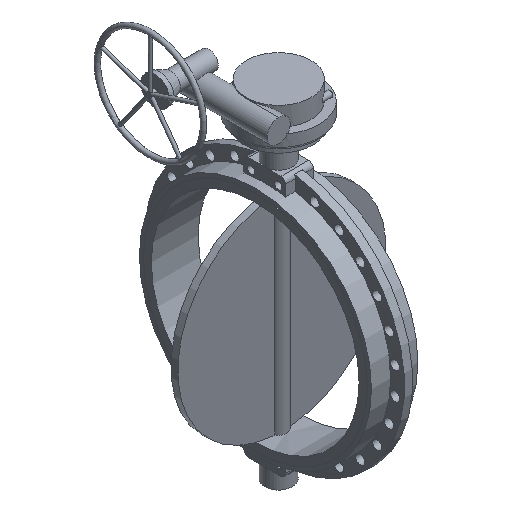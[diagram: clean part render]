
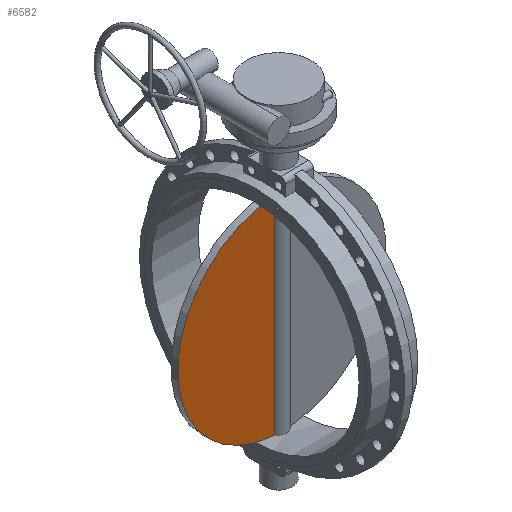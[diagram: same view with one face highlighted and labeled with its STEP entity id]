
A CAD part, isometric view. The second image highlights one B-rep face of the part: STEP entity #6582.
In plain terms, the highlighted planar face has unit normal (0, -1, 0).
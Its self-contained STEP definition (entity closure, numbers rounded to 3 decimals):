
#6582=ADVANCED_FACE('',(#12149),#12151,.T.);
#12149=FACE_BOUND('',#12150,.T.);
#12150=EDGE_LOOP('',(#16251,#16252,#16253,#16254));
#12151=PLANE('',#12152);
#12152=AXIS2_PLACEMENT_3D('',#12153,#12154,#12155);
#12153=CARTESIAN_POINT('',(0.,-15.,0.));
#12154=DIRECTION('',(0.,-1.,0.));
#12155=DIRECTION('',(0.,0.,1.));
#16251=ORIENTED_EDGE('',*,*,#18326,.T.);
#16252=ORIENTED_EDGE('',*,*,#18308,.T.);
#16253=ORIENTED_EDGE('',*,*,#18325,.T.);
#16254=ORIENTED_EDGE('',*,*,#18322,.T.);
#18308=EDGE_CURVE('',#21684,#21681,#21685,.F.);
#18322=EDGE_CURVE('',#21698,#21710,#21712,.T.);
#18325=EDGE_CURVE('',#21681,#21698,#21716,.T.);
#18326=EDGE_CURVE('',#21710,#21684,#21717,.F.);
#21681=VERTEX_POINT('',#30936);
#21684=VERTEX_POINT('',#30974);
#21685=LINE('',#30975,#30976);
#21698=VERTEX_POINT('',#31198);
#21710=VERTEX_POINT('',#31379);
#21712=LINE('',#31455,#31456);
#21716=CIRCLE('',#31467,451.5);
#21717=LINE('',#31471,#31472);
#30936=CARTESIAN_POINT('',(-39.715,-15.,449.75));
#30974=CARTESIAN_POINT('',(-31.623,-15.,449.75));
#30975=CARTESIAN_POINT('',(-39.715,-15.,449.75));
#30976=VECTOR('',#30977,1.);
#30977=DIRECTION('',(1.,0.,0.));
#31198=CARTESIAN_POINT('',(-39.715,-15.,-449.75));
#31379=CARTESIAN_POINT('',(-31.623,-15.,-449.75));
#31455=CARTESIAN_POINT('',(-39.715,-15.,-449.75));
#31456=VECTOR('',#31457,1.);
#31457=DIRECTION('',(1.,0.,0.));
#31467=AXIS2_PLACEMENT_3D('',#31468,#31469,#31470);
#31468=CARTESIAN_POINT('',(0.,-15.,0.));
#31469=DIRECTION('',(0.,-1.,0.));
#31470=DIRECTION('',(-0.088,0.,0.996));
#31471=CARTESIAN_POINT('',(-31.623,-15.,449.75));
#31472=VECTOR('',#31473,1.);
#31473=DIRECTION('',(0.,0.,-1.));
